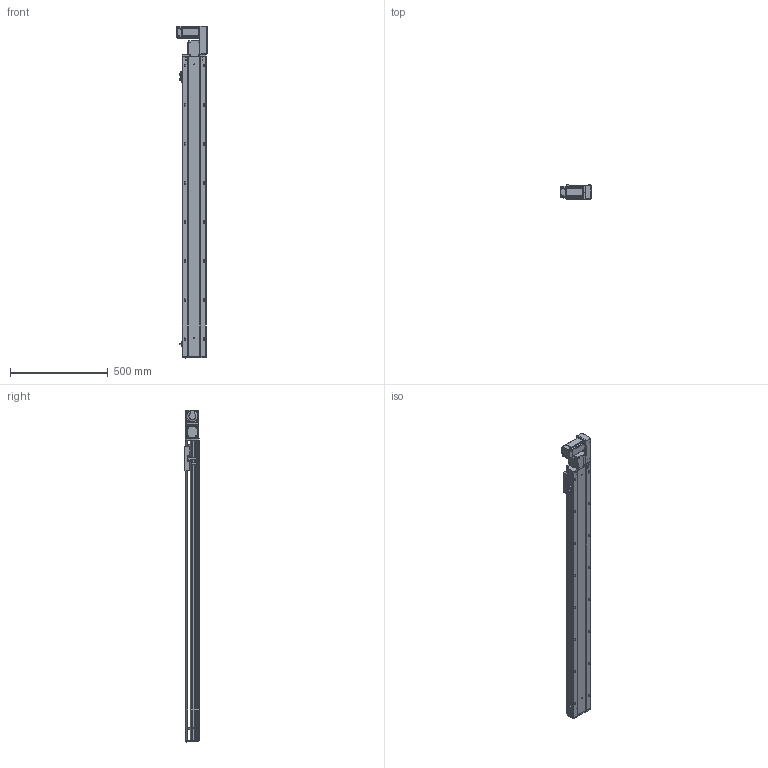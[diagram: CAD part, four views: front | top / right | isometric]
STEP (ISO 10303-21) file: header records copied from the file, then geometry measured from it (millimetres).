
FILE_DESCRIPTION (( 'STEP AP203' ), '1' );
FILE_NAME ('RY120-T-300-RK.SLDASM_1300.step', '2021-03-01T03:54:07', ( '盈信电脑' ), ( '东莞市道滘镇水果街19号' ), 'SwSTEP 2.0', 'SolidWorks 2012', '' );
FILE_SCHEMA (( 'CONFIG_CONTROL_DESIGN' ));
Length unit declared in the file: millimetre
Products named in the file (17): 滅袉蝶18-10; 15; RY120-T萇儂假蚾啣; RY120-T翋肮祭謫裔啣; RY120-T翋肮祭盓傅釱; RY120-T肮祭湍揤踡輸2; RY120-T肮祭湍揤踡輸1; RY120外置感应片(140共用）; RY120綴裔啣; 覜茼ん672; RY120肮祭湍臏賑輸; RY120-T-300-RK倰第菁釱_1300; RY120-T-300-RK倰第奻裔啣_1300; RY120-T主同步轮轴承压盖; RY120-T萇儂欶; RY120-T-300-RK.SLDASM_1300; RY120-T蹟翐M4
Assembly tree (22 placements, depth 2):
  RY120-T-300-RK.SLDASM_1300
    RY120-T-300-RK倰第菁釱_1300
    RY120-T-300-RK倰第奻裔啣_1300
    RY120肮祭湍臏賑輸
    RY120綴裔啣
    覜茼ん672  x3
    RY120外置感应片(140共用）
    RY120-T肮祭湍揤踡輸1
    RY120-T肮祭湍揤踡輸2
    RY120-T翋肮祭盓傅釱
    滅袉蝶18-10  x2
    RY120-T翋肮祭謫裔啣
    15
    RY120-T萇儂假蚾啣
    RY120-T蹟翐M4  x4
    RY120-T萇儂欶
    RY120-T主同步轮轴承压盖
Bounding box: 155.5 x 73 x 1697.5 mm (x, y, z)
Volume: 4274522.8 mm3; surface area: 1610706.6 mm2
Topology: 23 solids, 23 shells, 2894 faces, 7892 edges, 5048 vertices
Faces by surface type: plane 1422, cylinder 1112, cone 271, bspline 89
Entity records: 92195 total; most frequent: CARTESIAN_POINT 23554, ORIENTED_EDGE 14168, DIRECTION 13414, EDGE_CURVE 7084, VERTEX_POINT 4635, AXIS2_PLACEMENT_3D 4511, VECTOR 4392, LINE 4392
